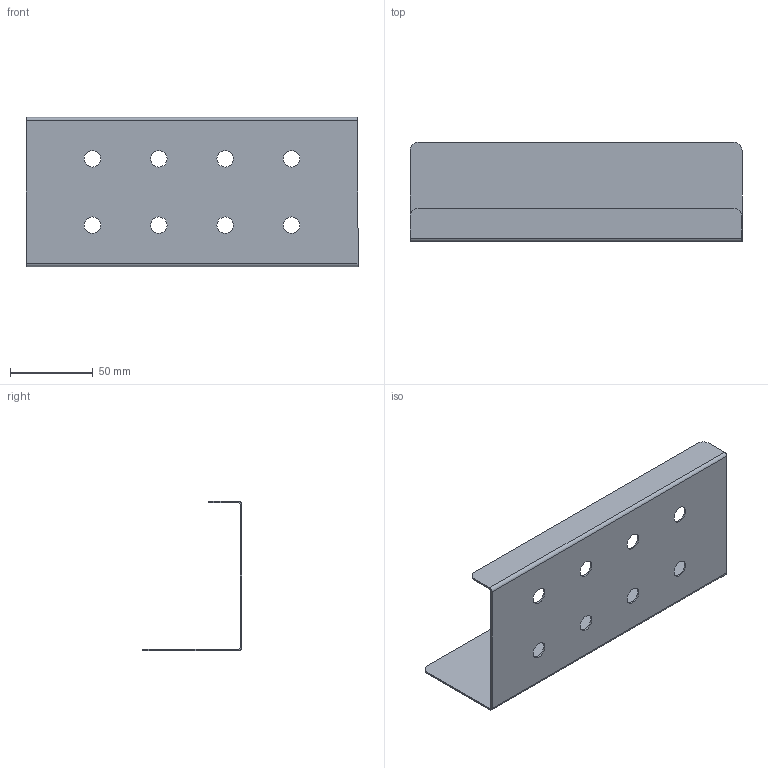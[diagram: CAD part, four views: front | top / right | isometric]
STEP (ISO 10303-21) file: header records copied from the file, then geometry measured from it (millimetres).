
FILE_DESCRIPTION (( 'STEP AP203' ), '1' );
FILE_NAME ('Pó³ka przyklejana 20cm.STEP', '2021-11-04T12:47:10', ( '' ), ( '' ), 'SwSTEP 2.0', 'SolidWorks 2021', '' );
FILE_SCHEMA (( 'CONFIG_CONTROL_DESIGN' ));
Length unit declared in the file: millimetre
Products named in the file (1): Pó³ka przyklejana 20cm
Bounding box: 200 x 60 x 90 mm (x, y, z)
Volume: 32692.7 mm3; surface area: 66361.6 mm2
Topology: 1 solids, 1 shells, 42 faces, 104 edges, 64 vertices
Faces by surface type: cylinder 24, plane 18
Entity records: 1357 total; most frequent: DIRECTION 238, CARTESIAN_POINT 211, ORIENTED_EDGE 208, EDGE_CURVE 104, AXIS2_PLACEMENT_3D 91, VERTEX_POINT 64, EDGE_LOOP 58, LINE 56
